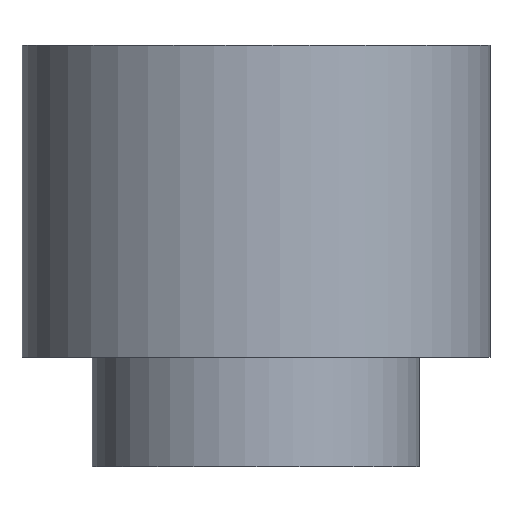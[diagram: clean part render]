
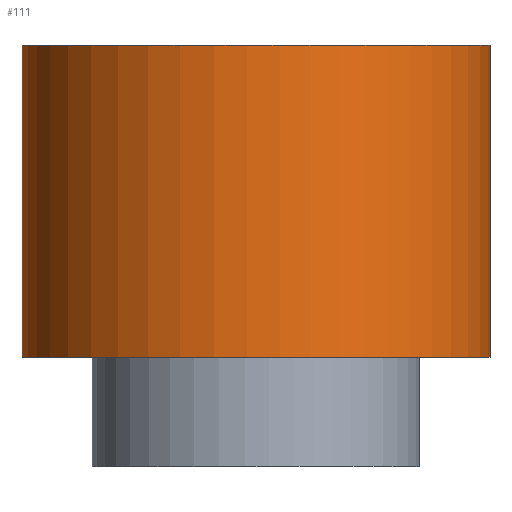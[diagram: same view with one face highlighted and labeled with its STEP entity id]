
A CAD part, front view. The second image highlights one B-rep face of the part: STEP entity #111.
In plain terms, the highlighted free-form (B-spline) face has degree [2, 1] with [7, 2] control points.
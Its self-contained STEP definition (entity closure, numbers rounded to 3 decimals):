
#92 = EDGE_CURVE('',#93,#93,#95,.T.);
#93 = VERTEX_POINT('',#94);
#94 = CARTESIAN_POINT('',(-3.,0.,0.));
#95 = ( BOUNDED_CURVE() B_SPLINE_CURVE(2,(#96,#97,#98,#99,#100,#101,#102
),.UNSPECIFIED.,.T.,.F.) B_SPLINE_CURVE_WITH_KNOTS((1,2,2,2,2,1),(
    -2.094,0.,2.094,4.189,6.283,
8.378),.UNSPECIFIED.) CURVE() GEOMETRIC_REPRESENTATION_ITEM() 
RATIONAL_B_SPLINE_CURVE((1.,0.5,1.,0.5,1.,0.5,1.)) REPRESENTATION_ITEM(
  '') );
#96 = CARTESIAN_POINT('',(-3.,0.,0.));
#97 = CARTESIAN_POINT('',(-3.,5.196,0.));
#98 = CARTESIAN_POINT('',(1.5,2.598,0.));
#99 = CARTESIAN_POINT('',(6.,0.,0.));
#100 = CARTESIAN_POINT('',(1.5,-2.598,0.));
#101 = CARTESIAN_POINT('',(-3.,-5.196,0.));
#102 = CARTESIAN_POINT('',(-3.,0.,0.));
#111 = ADVANCED_FACE('',(#112),#133,.T.);
#112 = FACE_BOUND('',#113,.T.);
#113 = EDGE_LOOP('',(#114,#126,#131,#132));
#114 = ORIENTED_EDGE('',*,*,#115,.T.);
#115 = EDGE_CURVE('',#116,#116,#118,.T.);
#116 = VERTEX_POINT('',#117);
#117 = CARTESIAN_POINT('',(-3.,0.,4.));
#118 = ( BOUNDED_CURVE() B_SPLINE_CURVE(2,(#119,#120,#121,#122,#123,#124
,#125),.UNSPECIFIED.,.T.,.F.) B_SPLINE_CURVE_WITH_KNOTS((1,2,2,2,2,1),(
    -2.094,0.,2.094,4.189,6.283,
8.378),.UNSPECIFIED.) CURVE() GEOMETRIC_REPRESENTATION_ITEM() 
RATIONAL_B_SPLINE_CURVE((1.,0.5,1.,0.5,1.,0.5,1.)) REPRESENTATION_ITEM(
  '') );
#119 = CARTESIAN_POINT('',(-3.,0.,4.));
#120 = CARTESIAN_POINT('',(-3.,5.196,4.));
#121 = CARTESIAN_POINT('',(1.5,2.598,4.));
#122 = CARTESIAN_POINT('',(6.,0.,4.));
#123 = CARTESIAN_POINT('',(1.5,-2.598,4.));
#124 = CARTESIAN_POINT('',(-3.,-5.196,4.));
#125 = CARTESIAN_POINT('',(-3.,0.,4.));
#126 = ORIENTED_EDGE('',*,*,#127,.F.);
#127 = EDGE_CURVE('',#93,#116,#128,.T.);
#128 = B_SPLINE_CURVE_WITH_KNOTS('',1,(#129,#130),.UNSPECIFIED.,.F.,.F.,
  (2,2),(1.4,5.4),.PIECEWISE_BEZIER_KNOTS.);
#129 = CARTESIAN_POINT('',(-3.,0.,0.));
#130 = CARTESIAN_POINT('',(-3.,0.,4.));
#131 = ORIENTED_EDGE('',*,*,#92,.F.);
#132 = ORIENTED_EDGE('',*,*,#127,.T.);
#133 = ( BOUNDED_SURFACE() B_SPLINE_SURFACE(2,1,(
    (#134,#135)
    ,(#136,#137)
    ,(#138,#139)
    ,(#140,#141)
    ,(#142,#143)
    ,(#144,#145)
,(#146,#147
    )),.UNSPECIFIED.,.T.,.F.,.F.) B_SPLINE_SURFACE_WITH_KNOTS((1,2,2,2,2
    ,1),(2,2),(-2.094,0.,2.094,4.189,
    6.283,8.378),(1.4,5.4),.UNSPECIFIED.) 
GEOMETRIC_REPRESENTATION_ITEM() RATIONAL_B_SPLINE_SURFACE((
    (1.,1.)
    ,(0.5,0.5)
    ,(1.,1.)
    ,(0.5,0.5)
    ,(1.,1.)
    ,(0.5,0.5)
,(1.,1.))) REPRESENTATION_ITEM('') SURFACE() );
#134 = CARTESIAN_POINT('',(-3.,0.,0.));
#135 = CARTESIAN_POINT('',(-3.,0.,4.));
#136 = CARTESIAN_POINT('',(-3.,-5.196,0.));
#137 = CARTESIAN_POINT('',(-3.,-5.196,4.));
#138 = CARTESIAN_POINT('',(1.5,-2.598,0.));
#139 = CARTESIAN_POINT('',(1.5,-2.598,4.));
#140 = CARTESIAN_POINT('',(6.,0.,0.));
#141 = CARTESIAN_POINT('',(6.,0.,4.));
#142 = CARTESIAN_POINT('',(1.5,2.598,0.));
#143 = CARTESIAN_POINT('',(1.5,2.598,4.));
#144 = CARTESIAN_POINT('',(-3.,5.196,0.));
#145 = CARTESIAN_POINT('',(-3.,5.196,4.));
#146 = CARTESIAN_POINT('',(-3.,0.,0.));
#147 = CARTESIAN_POINT('',(-3.,0.,4.));
